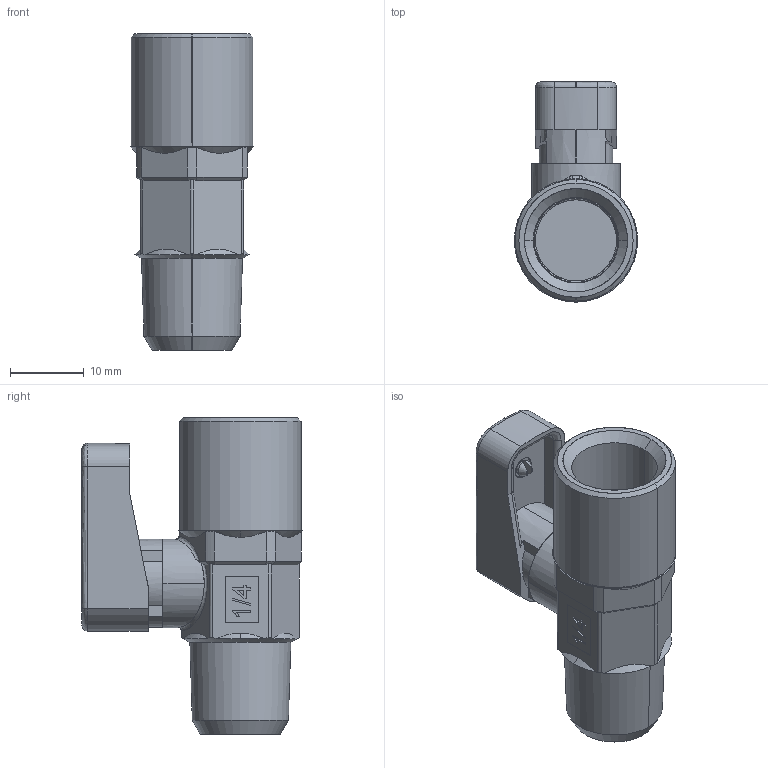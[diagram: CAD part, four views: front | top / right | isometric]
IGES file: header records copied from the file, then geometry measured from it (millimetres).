
Start section: SolidWorks IGES file using analytic representation for surfaces
Global section: file name: K:\Disegni Esecutivi\GHILUX\ASSIEMI_GHILUX\6310\ASSIEMI_PIENI_6310\0631000003.IGS; native system: SolidWorks 2008; preprocessor: SolidWorks 2008; author: cad02; date: 080526.172535; units: millimetre
Bounding box: 16.75 x 29.88 x 43 mm (x, y, z)
Surface area: 4994.1 mm2 (no closed solid volume)
Topology: 0 solids, 0 shells, 552 faces, 5329 edges, 5329 vertices
Faces by surface type: bspline 428, revolution 124
